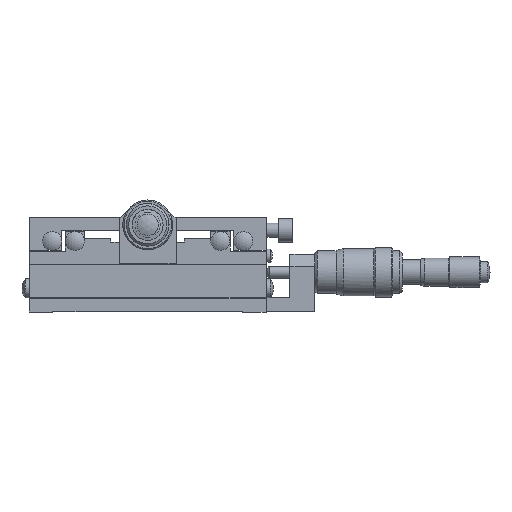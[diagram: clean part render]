
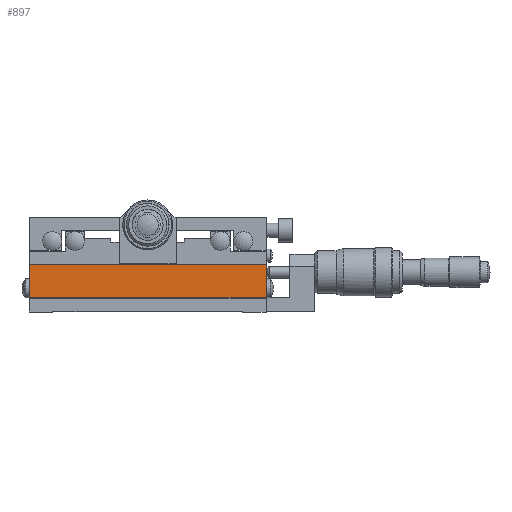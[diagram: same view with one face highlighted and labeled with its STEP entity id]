
A CAD part, front view. The second image highlights one B-rep face of the part: STEP entity #897.
In plain terms, the highlighted planar face has unit normal (0, -1, 0).
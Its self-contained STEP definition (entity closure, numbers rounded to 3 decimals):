
#897 = ADVANCED_FACE( '', ( #1991 ), #1992, .T. );
#1991 = FACE_OUTER_BOUND( '', #3180, .T. );
#1992 = PLANE( '', #3181 );
#3180 = EDGE_LOOP( '', ( #5449, #5450, #5451, #5452 ) );
#3181 = AXIS2_PLACEMENT_3D( '', #5453, #5454, #5455 );
#5449 = ORIENTED_EDGE( '', *, *, #6196, .T. );
#5450 = ORIENTED_EDGE( '', *, *, #6076, .T. );
#5451 = ORIENTED_EDGE( '', *, *, #6391, .F. );
#5452 = ORIENTED_EDGE( '', *, *, #6542, .F. );
#5453 = CARTESIAN_POINT( '', ( 0., -50., 6.5 ) );
#5454 = DIRECTION( '', ( 0., -1., 0. ) );
#5455 = DIRECTION( '', ( 0., 0., -1. ) );
#6076 = EDGE_CURVE( '', #7178, #7183, #7185, .T. );
#6196 = EDGE_CURVE( '', #7369, #7178, #7370, .T. );
#6391 = EDGE_CURVE( '', #7659, #7183, #7661, .T. );
#6542 = EDGE_CURVE( '', #7369, #7659, #7876, .T. );
#7178 = VERTEX_POINT( '', #8699 );
#7183 = VERTEX_POINT( '', #8706 );
#7185 = LINE( '', #8709, #8710 );
#7369 = VERTEX_POINT( '', #8941 );
#7370 = LINE( '', #8942, #8943 );
#7659 = VERTEX_POINT( '', #9307 );
#7661 = LINE( '', #9310, #9311 );
#7876 = LINE( '', #9609, #9610 );
#8699 = CARTESIAN_POINT( '', ( 50., -50., 20. ) );
#8706 = CARTESIAN_POINT( '', ( -50., -50., 20. ) );
#8709 = CARTESIAN_POINT( '', ( 0., -50., 20. ) );
#8710 = VECTOR( '', #10262, 1000. );
#8941 = CARTESIAN_POINT( '', ( 50., -50., 6. ) );
#8942 = CARTESIAN_POINT( '', ( 50., -50., 6.5 ) );
#8943 = VECTOR( '', #10413, 1000. );
#9307 = CARTESIAN_POINT( '', ( -50., -50., 6. ) );
#9310 = CARTESIAN_POINT( '', ( -50., -50., 14. ) );
#9311 = VECTOR( '', #10664, 1000. );
#9609 = CARTESIAN_POINT( '', ( 0., -50., 6. ) );
#9610 = VECTOR( '', #10837, 1000. );
#10262 = DIRECTION( '', ( -1., 0., 0. ) );
#10413 = DIRECTION( '', ( 0., 0., 1. ) );
#10664 = DIRECTION( '', ( 0., 0., 1. ) );
#10837 = DIRECTION( '', ( -1., 0., 0. ) );
